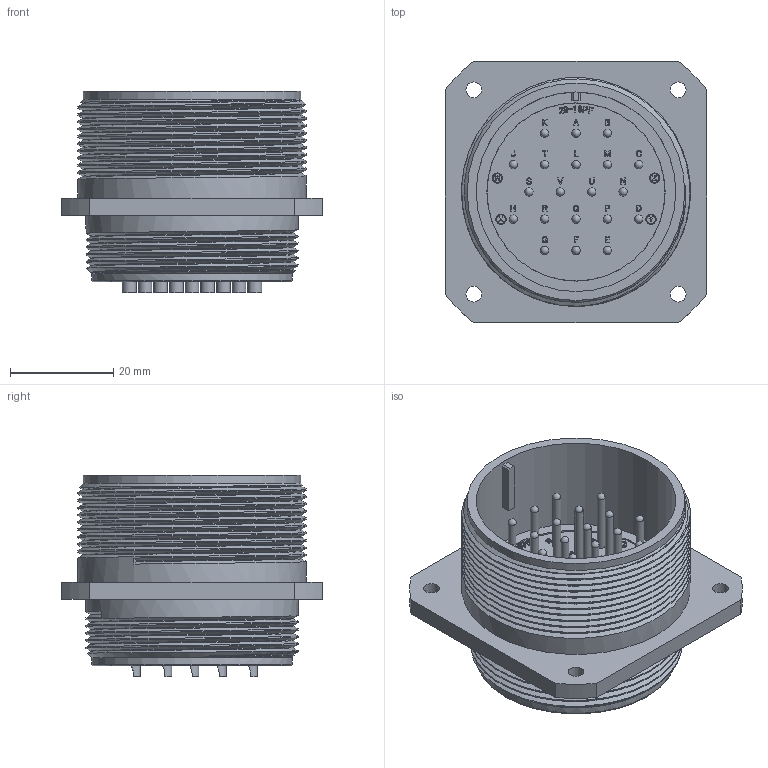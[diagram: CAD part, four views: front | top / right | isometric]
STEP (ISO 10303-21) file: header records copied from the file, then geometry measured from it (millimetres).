
FILE_DESCRIPTION (( 'STEP AP203' ), '1' );
FILE_NAME ('DMS3100A28-16P(D263).STEP', '2022-02-14T09:40:28', ( '' ), ( '' ), 'SwSTEP 2.0', 'SolidWorks 2018', '' );
FILE_SCHEMA (( 'CONFIG_CONTROL_DESIGN' ));
Products named in the file (1): DMS3100A28-16P(D263)
Bounding box: 50.8 x 50.8 x 39.2 mm (x, y, z)
Volume: 29296.4 mm3; surface area: 18931 mm2
Topology: 1 solids, 1 shells, 1405 faces, 3772 edges, 2495 vertices
Faces by surface type: plane 794, bspline 435, cylinder 153, sphere 20, cone 2, torus 1
Full cylindrical faces by diameter (mm): 1.59 x20, 1.7 x4, 2 x4, 3.05 x4, 31.75 x1, 34.54 x1, 34.6 x1, 36.35 x1, 38.75 x1, 38.94 x1, 41.23 x5, 42.22 x1, 44.41 x10
Entity records: 59182 total; most frequent: CARTESIAN_POINT 27805, ORIENTED_EDGE 7230, DIRECTION 4809, EDGE_CURVE 3615, VERTEX_POINT 2436, VECTOR 2411, LINE 2411, EDGE_LOOP 1609
